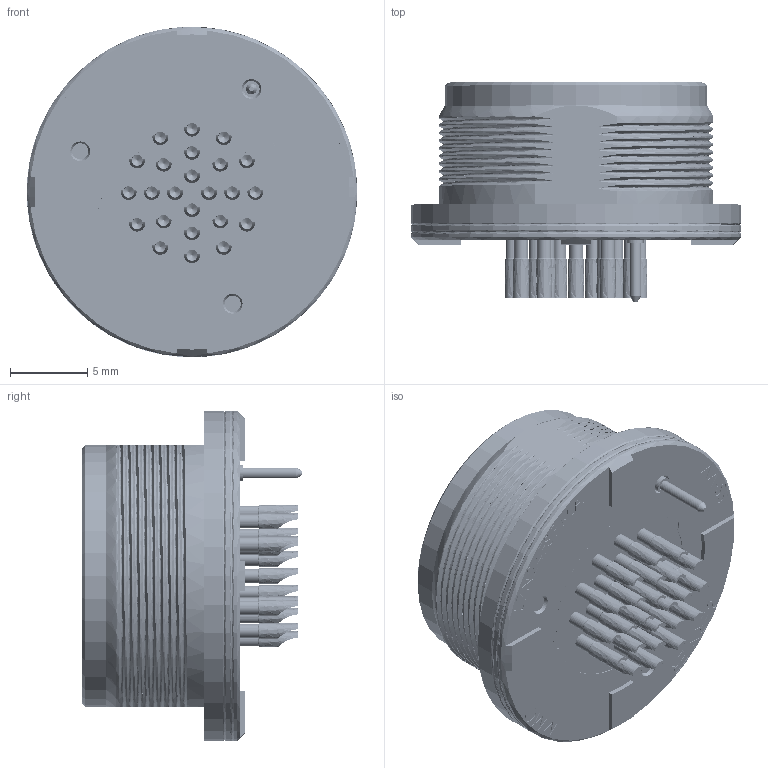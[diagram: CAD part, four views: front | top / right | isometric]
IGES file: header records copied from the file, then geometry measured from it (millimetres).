
Start section: SolidWorks IGES file using analytic representation for surfaces
Global section: file name: C:\Users\JGC\OneDrive - BERNIER\Bureau\FMMCEM_defeature.IGS; native system: SolidWorks 2021; preprocessor: SolidWorks 2021; author: JGC; date: 221010.124614; units: millimetre
Bounding box: 21.4 x 14.2 x 21.4 mm (x, y, z)
Surface area: 3325.6 mm2 (no closed solid volume)
Topology: 0 solids, 0 shells, 2350 faces, 26530 edges, 26443 vertices
Faces by surface type: bspline 1213, revolution 1137
